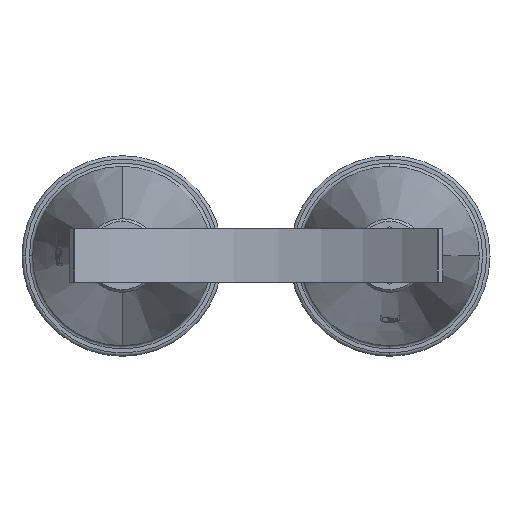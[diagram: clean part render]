
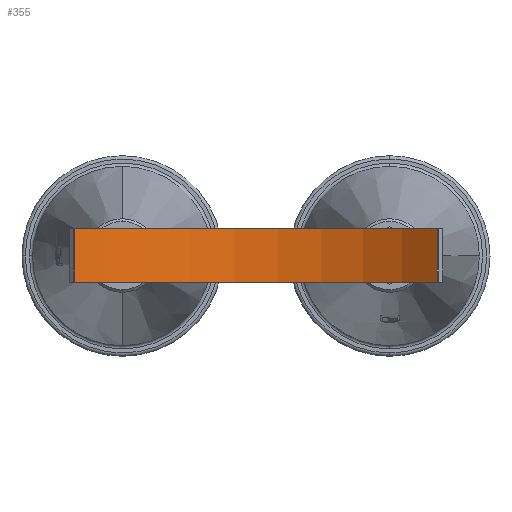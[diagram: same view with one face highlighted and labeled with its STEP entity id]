
A CAD part, top view. The second image highlights one B-rep face of the part: STEP entity #355.
In plain terms, the highlighted cylindrical face has radius 403 mm (diameter 806 mm), a partial arc.
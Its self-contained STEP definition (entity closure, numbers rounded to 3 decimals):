
#355=ADVANCED_FACE('',(#839),#840,.F.);
#839=FACE_OUTER_BOUND('',#1527,.T.);
#840=CYLINDRICAL_SURFACE('',#1528,403.);
#1527=EDGE_LOOP('',(#2249,#2250,#2251,#2252));
#1528=AXIS2_PLACEMENT_3D('',#2253,#2254,#2255);
#2249=ORIENTED_EDGE('',*,*,#3924,.T.);
#2250=ORIENTED_EDGE('',*,*,#3914,.F.);
#2251=ORIENTED_EDGE('',*,*,#3925,.T.);
#2252=ORIENTED_EDGE('',*,*,#3921,.T.);
#2253=CARTESIAN_POINT('',(774.938,924.56,0.));
#2254=DIRECTION('',(0.,-1.0,0.));
#2255=DIRECTION('',(1.0,0.,0.));
#3914=EDGE_CURVE('',#4624,#4619,#4626,.T.);
#3921=EDGE_CURVE('',#4636,#4634,#4637,.T.);
#3924=EDGE_CURVE('',#4634,#4619,#4640,.T.);
#3925=EDGE_CURVE('',#4624,#4636,#4641,.T.);
#4619=VERTEX_POINT('',#5893);
#4624=VERTEX_POINT('',#5900);
#4626=LINE('',#5903,#5904);
#4634=VERTEX_POINT('',#5913);
#4636=VERTEX_POINT('',#5916);
#4637=LINE('',#5917,#5918);
#4640=CIRCLE('',#5922,403.);
#4641=CIRCLE('',#5923,403.);
#5893=CARTESIAN_POINT('',(1045.682,844.56,-298.508));
#5900=CARTESIAN_POINT('',(1045.682,924.56,-298.508));
#5903=CARTESIAN_POINT('',(1045.682,924.56,-298.508));
#5904=VECTOR('',#8220,1.);
#5913=CARTESIAN_POINT('',(503.969,844.56,-298.303));
#5916=CARTESIAN_POINT('',(503.969,924.56,-298.303));
#5917=CARTESIAN_POINT('',(503.969,924.56,-298.303));
#5918=VECTOR('',#8229,1.);
#5922=AXIS2_PLACEMENT_3D('',#8231,#8232,#8233);
#5923=AXIS2_PLACEMENT_3D('',#8234,#8235,#8236);
#8220=DIRECTION('',(0.,-1.0,0.));
#8229=DIRECTION('',(0.,-1.0,0.));
#8231=CARTESIAN_POINT('',(774.938,844.56,0.));
#8232=DIRECTION('',(0.,-1.0,0.));
#8233=DIRECTION('',(1.0,0.,0.));
#8234=CARTESIAN_POINT('',(774.938,924.56,0.));
#8235=DIRECTION('',(0.,1.0,0.));
#8236=DIRECTION('',(1.0,0.,0.));
